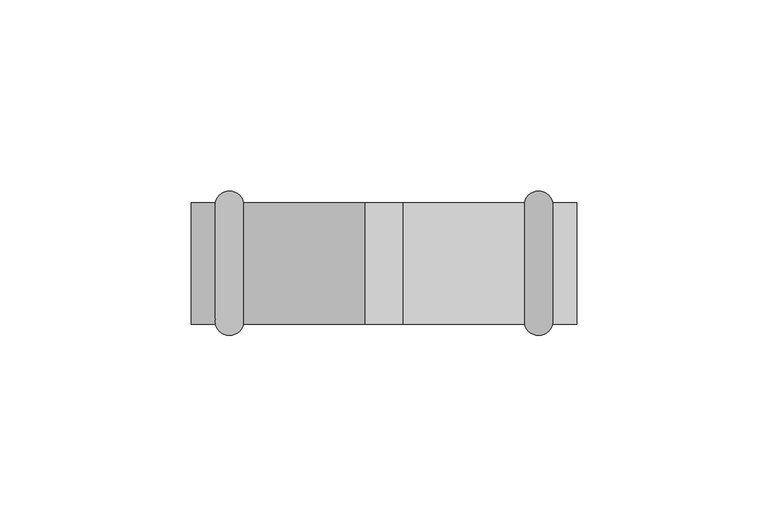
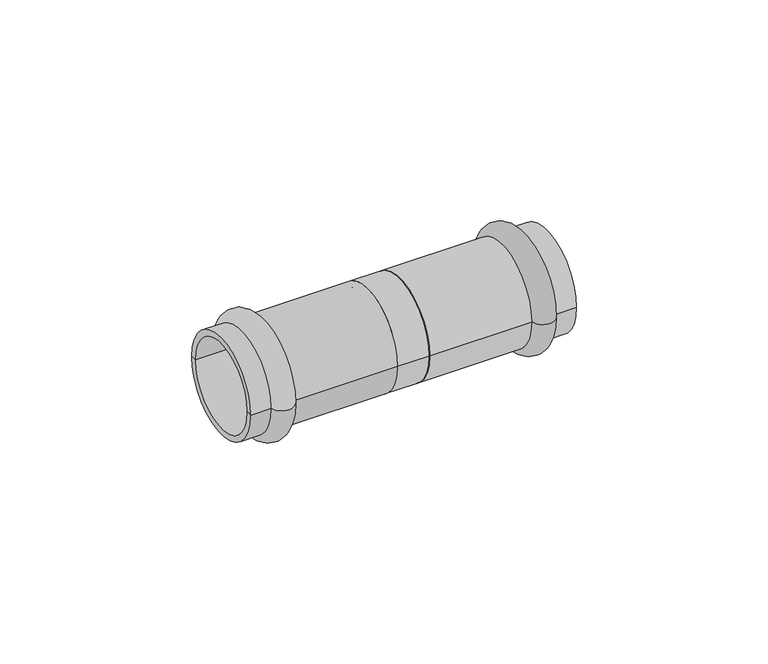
"""IFC4 building model written with IfcOpenShell, lengths in millimetres: pipe fitting geometry, VALTEC_VTi.904.I_Удлинитель_Нержавеющая сталь : VTi.904.I."""

import ifcopenshell
import ifcopenshell.guid

model = None  # the IFC model being written
_history = None  # IfcOwnerHistory: only IFC2X3 demands one
_inside = {}  # id of a spatial element -> (the spatial element, [elements in it])
_under = {}  # id of a project, library or spatial element -> (it, [spatial elements below it])
_declared = {}  # id of a project -> (the project, [libraries it declares])
_typed = {}  # id of a type object -> (the type object, [elements of that type])
_made_of = {}  # id of a material, layer set ... -> (it, [elements and type objects made of it])


def new_model(schema):
    """Start an empty IFC model of exactly this schema.

    Asked for "IFC4X3", IfcOpenShell would pick the latest addendum, in which some entities
    have other attributes; the version numbers below select the first issue.
    IFC2X3 requires an IfcOwnerHistory on every rooted entity: one is made here for all.
    """
    global model, _history
    if schema == "IFC4X3":
        model = ifcopenshell.file(schema_version=(4, 3, 0, 0))
    else:
        model = ifcopenshell.file(schema=schema)
    _inside.clear()
    _under.clear()
    _declared.clear()
    _typed.clear()
    _made_of.clear()
    _history = None
    if model.schema == "IFC2X3":
        org = make("IfcOrganization", Name="unknown")
        user = make(
            "IfcPersonAndOrganization",
            ThePerson=make("IfcPerson", FamilyName="unknown"),
            TheOrganization=org,
        )
        app = make(
            "IfcApplication",
            ApplicationDeveloper=org,
            Version="unknown",
            ApplicationFullName="unknown",
            ApplicationIdentifier="unknown",
        )
        _history = make(
            "IfcOwnerHistory",
            OwningUser=user,
            OwningApplication=app,
            ChangeAction="ADDED",
            CreationDate=0,
        )
    return model


def make(cls, **values):
    """One entity of the class cls with the attributes given. An attribute that is None is left unset."""
    return model.create_entity(
        cls, **{name: value for name, value in values.items() if value is not None}
    )


def rooted(cls, **values):
    """An entity with a GlobalId (a new one), such as an element, a storey or a relation."""
    return make(cls, GlobalId=ifcopenshell.guid.new(), OwnerHistory=_history, **values)


def si_unit(unit_type, name, prefix=None):
    """IfcSIUnit, for example si_unit("LENGTHUNIT", "METRE", prefix="MILLI")."""
    return make("IfcSIUnit", UnitType=unit_type, Prefix=prefix, Name=name)


def assignment(units):
    """IfcUnitAssignment: the units of a project."""
    return None if units is None else make("IfcUnitAssignment", Units=units)


def point(xyz):
    """IfcCartesianPoint."""
    return None if xyz is None else make("IfcCartesianPoint", Coordinates=xyz)


def direction(xyz):
    """IfcDirection."""
    return None if xyz is None else make("IfcDirection", DirectionRatios=xyz)


def frame(location, z_axis=None, x_axis=None):
    """IfcAxis2Placement3D, a coordinate frame: its origin and axes. An axis left out is left unset."""
    return make(
        "IfcAxis2Placement3D",
        Location=point(location),
        Axis=direction(z_axis),
        RefDirection=direction(x_axis),
    )


def frame_2d(location, x_axis=None):
    """IfcAxis2Placement2D, a coordinate frame in the plane: its origin and x axis."""
    return make(
        "IfcAxis2Placement2D", Location=point(location), RefDirection=direction(x_axis)
    )


def origin():
    """The frame at (0, 0, 0) with its axes left unset."""
    return frame((0.0, 0.0, 0.0))


def origin_2d():
    """The frame at (0, 0) in the plane with its x axis left unset."""
    return frame_2d((0.0, 0.0))


def place(relative_to, where):
    """IfcLocalPlacement: puts the frame where relative to a parent placement (None: the world)."""
    return make(
        "IfcLocalPlacement", PlacementRelTo=relative_to, RelativePlacement=where
    )


def context(
    kind, dimensions, precision=None, world=None, true_north=None, identifier=None
):
    """IfcGeometricRepresentationContext, for example the 3D "Model" context."""
    return make(
        "IfcGeometricRepresentationContext",
        ContextIdentifier=identifier,
        ContextType=kind,
        CoordinateSpaceDimension=dimensions,
        Precision=precision,
        WorldCoordinateSystem=world,
        TrueNorth=true_north,
    )


def project(units=None, contexts=None):
    """IfcProject with its units and contexts."""
    return rooted(
        "IfcProject",
        Name="project",
        RepresentationContexts=contexts,
        UnitsInContext=assignment(units),
    )


def spatial(cls, under=None, at=None, **own):
    """A site, building, storey or space (cls), placed at a placement, below another one or the project."""
    s = rooted(cls, ObjectPlacement=at, **own)
    if under is not None:
        _under.setdefault(under.id(), (under, []))[1].append(s)
    return s


def polyline(points):
    """IfcPolyline through the points."""
    return make("IfcPolyline", Points=[point(p) for p in points])


def circle_curve(where, radius):
    """IfcCircle in the frame where."""
    return make("IfcCircle", Position=where, Radius=radius)


def ellipse_curve(where, semi_axis1, semi_axis2):
    """IfcEllipse in the frame where."""
    return make(
        "IfcEllipse", Position=where, SemiAxis1=semi_axis1, SemiAxis2=semi_axis2
    )


def trimmed(basis, trim1, trim2, sense, master):
    """IfcTrimmedCurve: the piece of a basis curve between two trims."""
    return make(
        "IfcTrimmedCurve",
        BasisCurve=basis,
        Trim1=trim1,
        Trim2=trim2,
        SenseAgreement=sense,
        MasterRepresentation=master,
    )


def segment(curve, same_sense, transition):
    """IfcCompositeCurveSegment."""
    return make(
        "IfcCompositeCurveSegment",
        Transition=transition,
        SameSense=same_sense,
        ParentCurve=curve,
    )


def composite_curve(segments, self_intersect=None):
    """IfcCompositeCurve: segments joined end to end."""
    return make("IfcCompositeCurve", Segments=segments, SelfIntersect=self_intersect)


def outline(outer, holes=None, kind="AREA"):
    """IfcArbitraryClosedProfileDef: a profile drawn as a closed curve; with holes, ...WithVoids."""
    if holes is None:
        return make("IfcArbitraryClosedProfileDef", ProfileType=kind, OuterCurve=outer)
    return make(
        "IfcArbitraryProfileDefWithVoids",
        ProfileType=kind,
        OuterCurve=outer,
        InnerCurves=holes,
    )


def extrude(swept, where, along, depth):
    """IfcExtrudedAreaSolid: the profile swept, set in the frame where, extruded along a direction by depth."""
    return make(
        "IfcExtrudedAreaSolid",
        SweptArea=swept,
        Position=where,
        ExtrudedDirection=direction(along),
        Depth=depth,
    )


def shape(context_of_items, identifier, shape_type, items):
    """IfcShapeRepresentation: the items that make up one representation, for example the "Body"."""
    return make(
        "IfcShapeRepresentation",
        ContextOfItems=context_of_items,
        RepresentationIdentifier=identifier,
        RepresentationType=shape_type,
        Items=items,
    )


def source(mapping_origin, context_of_items, identifier, shape_type, items):
    """IfcRepresentationMap: a shape defined once, which mapped items show again and again."""
    return make(
        "IfcRepresentationMap",
        MappingOrigin=mapping_origin,
        MappedRepresentation=shape(context_of_items, identifier, shape_type, items),
    )


def transform(
    local_origin,
    x_axis=None,
    y_axis=None,
    z_axis=None,
    scale=None,
    scale2=None,
    scale3=None,
    uniform=True,
):
    """IfcCartesianTransformationOperator3D, or its non-uniform kind. x_axis, y_axis, z_axis: its Axis1, 2, 3."""
    if uniform:
        return make(
            "IfcCartesianTransformationOperator3D",
            Axis1=direction(x_axis),
            Axis2=direction(y_axis),
            LocalOrigin=point(local_origin),
            Scale=scale,
            Axis3=direction(z_axis),
        )
    return make(
        "IfcCartesianTransformationOperator3DnonUniform",
        Axis1=direction(x_axis),
        Axis2=direction(y_axis),
        LocalOrigin=point(local_origin),
        Scale=scale,
        Axis3=direction(z_axis),
        Scale2=scale2,
        Scale3=scale3,
    )


def mapped(mapping_source, mapping_target):
    """IfcMappedItem: shows the shape of a source again, moved by a transform."""
    return make(
        "IfcMappedItem", MappingSource=mapping_source, MappingTarget=mapping_target
    )


def made_of(thing, what):
    """Note that an element or type object is made of a material, layer set ...; save() writes the relation."""
    if what is not None:
        _made_of.setdefault(what.id(), (what, []))[1].append(thing)
    return thing


def element(
    cls,
    number,
    at=None,
    inside=None,
    cuts=None,
    type_object=None,
    material=None,
    context=None,
    identifier="Body",
    shape_type=None,
    held_by="IfcProductDefinitionShape",
    body=None,
    shapes=None,
    **own,
):
    """One element of the class cls, such as IfcWall. Its Tag is "e" and its number.

    at: its placement. inside: the storey or other place that contains it. cuts: it is an
    opening in that element (IfcRelVoidsElement). A single representation is given by context,
    identifier, shape_type and body (its items); several are given by shapes. held_by: the class
    of the entity that holds the representations. save() writes the other relations.
    """
    e = rooted(cls, Tag="e%d" % number, ObjectPlacement=at, **own)
    if body is not None:
        shapes = [shape(context, identifier, shape_type, body)]
    if shapes is not None:
        e.Representation = make(held_by, Representations=shapes)
    if inside is not None:
        _inside.setdefault(inside.id(), (inside, []))[1].append(e)
    if cuts is not None:
        rooted(
            "IfcRelVoidsElement", RelatingBuildingElement=cuts, RelatedOpeningElement=e
        )
    if type_object is not None:
        _typed.setdefault(type_object.id(), (type_object, []))[1].append(e)
    return made_of(e, material)


def aggregate(whole, parts):
    """IfcRelAggregates: a whole, such as a stair, and the parts it consists of."""
    return rooted("IfcRelAggregates", RelatingObject=whole, RelatedObjects=parts)


def save(model, path):
    """Write the relations noted so far, then the file.

    IfcRelAggregates (storeys below a building ...), IfcRelContainedInSpatialStructure (elements
    in a storey), IfcRelDefinesByType, IfcRelAssociatesMaterial and IfcRelDeclares: one each for
    every whole, place, type object, material and project.
    """
    for whole, parts in _under.values():
        aggregate(whole, parts)
    for where, things in _inside.values():
        rooted(
            "IfcRelContainedInSpatialStructure",
            RelatedElements=things,
            RelatingStructure=where,
        )
    for kind, things in _typed.values():
        rooted("IfcRelDefinesByType", RelatedObjects=things, RelatingType=kind)
    for what, things in _made_of.values():
        rooted("IfcRelAssociatesMaterial", RelatedObjects=things, RelatingMaterial=what)
    for by, libraries in _declared.values():
        rooted("IfcRelDeclares", RelatingContext=by, RelatedDefinitions=libraries)
    model.write(path)


def plane_surface(at):
    """IfcPlane: the flat surface through the origin of the frame at, square to its z axis."""
    return make("IfcPlane", Position=at)


def cylinder_surface(at, radius):
    """IfcCylindricalSurface: all points at the distance radius from the z axis of the frame at."""
    return make("IfcCylindricalSurface", Position=at, Radius=radius)


def revolved_surface(curve, axis_point, axis_direction):
    """IfcSurfaceOfRevolution: the curve turned about the line through axis_point along axis_direction."""
    return make(
        "IfcSurfaceOfRevolution",
        SweptCurve=make("IfcArbitraryOpenProfileDef", ProfileType="CURVE", Curve=curve),
        AxisPosition=make("IfcAxis1Placement", Location=point(axis_point), Axis=direction(axis_direction)),
    )


def advanced_brep(points, edges, surfaces, faces):
    """IfcAdvancedBrep: a solid bounded by faces that lie on surfaces and meet in shared edges.

    An edge is (start, end): straight between two places in points (the first is 0);
    or (start, end, curve); or (start, end, curve, False) where it runs against its curve.
    A face is (place in surfaces, loops), or (place, loops, False) where it looks against
    its surface's normal. A loop lists edges by number (the first is 1), with a minus sign
    where the edge is run from its end to its start. The first loop is the outer one.
    """
    corners = [point(p) for p in points]
    vertices = [make("IfcVertexPoint", VertexGeometry=c) for c in corners]
    made = []
    for start, end, *more in edges:
        made.append(
            make(
                "IfcEdgeCurve",
                EdgeStart=vertices[start],
                EdgeEnd=vertices[end],
                EdgeGeometry=more[0] if more else make("IfcPolyline", Points=[corners[start], corners[end]]),
                SameSense=more[1] if len(more) > 1 else True,
            )
        )
    hull = []
    for where, loops, *sense in faces:
        bounds = []
        for j, loop in enumerate(loops):
            ring = [make("IfcOrientedEdge", EdgeElement=made[abs(k) - 1], Orientation=k > 0) for k in loop]
            bounds.append(
                make(
                    "IfcFaceOuterBound" if j == 0 else "IfcFaceBound",
                    Bound=make("IfcEdgeLoop", EdgeList=ring),
                    Orientation=True,
                )
            )
        hull.append(make("IfcAdvancedFace", Bounds=bounds, FaceSurface=surfaces[where], SameSense=sense[0] if sense else True))
    return make("IfcAdvancedBrep", Outer=make("IfcClosedShell", CfsFaces=hull))


def pipe_fitting_318d39f8(model_context):
    return source(origin(), model_context, "Body", "SolidModel", [
        advanced_brep(
        [(44.1242346, -15.9, 0.0), (36.7757654, -15.9, 0.0), (36.7757654, 15.9, 0.0), (44.1242346, 15.9, 0.0), (50.5, -15.9, 0.0), (50.5, 15.9, 0.0), (50.5, -14.0, 0.0), (50.5, 14.0, 0.0), (5.0, -14.0, 0.0), (5.0, 14.0, 0.0), (5.0, -15.9, 0.0), (5.0, 15.9, 0.0)],
        [
            (0, 1, circle_curve(frame((40.45, -15.15, 0.0), z_axis=(0.0, 0.0, -1.0), x_axis=(-1.0, 0.0, 0.0)), 3.75)),
            (1, 2, circle_curve(frame((36.7757654, 0.0, 0.0), z_axis=(1.0, 0.0, 0.0), x_axis=(0.0, 1.0, 0.0)), 15.9)),
            (2, 3, circle_curve(frame((40.45, 15.15, 0.0), z_axis=(0.0, 0.0, -1.0), x_axis=(-1.0, 0.0, 0.0)), 3.75)),
            (3, 0, circle_curve(frame((44.1242346, 0.0, 0.0), z_axis=(-1.0, 0.0, 0.0), x_axis=(0.0, 1.0, 0.0)), 15.9)),
            (2, 1, circle_curve(frame((36.7757654, 0.0, 0.0), z_axis=(1.0, 0.0, 0.0), x_axis=(0.0, 1.0, 0.0)), 15.9)),
            (0, 3, circle_curve(frame((44.1242346, 0.0, 0.0), z_axis=(-1.0, 0.0, 0.0), x_axis=(0.0, 1.0, 0.0)), 15.9)),
            (4, 0),
            (3, 5),
            (5, 4, circle_curve(frame((50.5, 0.0, 0.0), z_axis=(-1.0, 0.0, 0.0), x_axis=(0.0, 1.0, 0.0)), 15.9)),
            (4, 5, circle_curve(frame((50.5, 0.0, 0.0), z_axis=(-1.0, 0.0, 0.0), x_axis=(0.0, 1.0, 0.0)), 15.9)),
            (6, 4),
            (5, 7),
            (7, 6, circle_curve(frame((50.5, 0.0, 0.0), z_axis=(-1.0, 0.0, 0.0), x_axis=(0.0, 1.0, 0.0)), 14.0)),
            (6, 7, circle_curve(frame((50.5, 0.0, 0.0), z_axis=(-1.0, 0.0, 0.0), x_axis=(0.0, 1.0, 0.0)), 14.0)),
            (8, 6),
            (7, 9),
            (9, 8, circle_curve(frame((5.0, 0.0, 0.0), z_axis=(-1.0, 0.0, 0.0), x_axis=(0.0, 1.0, 0.0)), 14.0)),
            (8, 9, circle_curve(frame((5.0, 0.0, 0.0), z_axis=(-1.0, 0.0, 0.0), x_axis=(0.0, 1.0, 0.0)), 14.0)),
            (10, 8),
            (9, 11),
            (11, 10, circle_curve(frame((5.0, 0.0, 0.0), z_axis=(-1.0, 0.0, 0.0), x_axis=(0.0, 1.0, 0.0)), 15.9)),
            (10, 11, circle_curve(frame((5.0, 0.0, 0.0), z_axis=(-1.0, 0.0, 0.0), x_axis=(0.0, 1.0, 0.0)), 15.9)),
            (1, 10),
            (11, 2),
        ],
        [
            revolved_surface(trimmed(ellipse_curve(frame((40.45, 15.15, 0.0), z_axis=(0.0, 0.0, -1.0), x_axis=(-1.0, 0.0, 0.0)), 3.75, 3.75), [point((36.7757654, 15.9, 0.0))], [point((44.1242346, 15.9, 0.0))], True, "CARTESIAN"), (54.0364426, 0.0, 0.0), (1.0, 0.0, 0.0)),
            cylinder_surface(frame((54.0364426, 0.0, 0.0), z_axis=(1.0, 0.0, 0.0), x_axis=(0.0, 1.0, 0.0)), 15.9),
            plane_surface(frame((50.5, 0.0, 0.0), z_axis=(1.0, 0.0, 0.0), x_axis=(0.0, 1.0, 0.0))),
            revolved_surface(polyline([(50.5, 14.0, 0.0), (5.0, 14.0, 0.0)]), (54.0364426, 0.0, 0.0), (1.0, 0.0, 0.0)),
            plane_surface(frame((5.0, 0.0, 0.0), z_axis=(-1.0, 0.0, 0.0), x_axis=(0.0, 1.0, 0.0))),
        ],
        [
            (0, [[1, 2, 3, 4]]),
            (0, [[-3, 5, -1, 6]]),
            (1, [[7, -4, 8, 9]]),
            (1, [[-8, -6, -7, 10]]),
            (2, [[11, -9, 12, 13]]),
            (2, [[-12, -10, -11, 14]]),
            (3, [[15, -13, 16, 17]]),
            (3, [[-16, -14, -15, 18]]),
            (4, [[19, -17, 20, 21]]),
            (4, [[-20, -18, -19, 22]]),
            (1, [[23, -21, 24, -2]]),
            (1, [[-24, -22, -23, -5]]),
        ],
    ),
        advanced_brep(
        [(-44.1242346, -15.9, 0.0), (-44.1242346, 15.9, 0.0), (-36.7757654, 15.9, 0.0), (-36.7757654, -15.9, 0.0), (-50.5, -15.9, 0.0), (-50.5, 15.9, 0.0), (-50.5, -14.0, 0.0), (-50.5, 14.0, 0.0), (-5.0, -14.0, 0.0), (-5.0, 14.0, 0.0), (-5.0, -15.9, 0.0), (-5.0, 15.9, 0.0)],
        [
            (0, 1, circle_curve(frame((-44.1242346, 0.0, 0.0), z_axis=(1.0, 0.0, 0.0), x_axis=(0.0, 1.0, 0.0)), 15.9)),
            (1, 2, circle_curve(frame((-40.45, 15.15, 0.0), z_axis=(0.0, 0.0, -1.0), x_axis=(1.0, 0.0, 0.0)), 3.75)),
            (2, 3, circle_curve(frame((-36.7757654, 0.0, 0.0), z_axis=(-1.0, 0.0, 0.0), x_axis=(0.0, 1.0, 0.0)), 15.9)),
            (3, 0, circle_curve(frame((-40.45, -15.15, 0.0), z_axis=(0.0, 0.0, -1.0), x_axis=(1.0, 0.0, 0.0)), 3.75)),
            (1, 0, circle_curve(frame((-44.1242346, 0.0, 0.0), z_axis=(1.0, 0.0, 0.0), x_axis=(0.0, 1.0, 0.0)), 15.9)),
            (3, 2, circle_curve(frame((-36.7757654, 0.0, 0.0), z_axis=(-1.0, 0.0, 0.0), x_axis=(0.0, 1.0, 0.0)), 15.9)),
            (4, 5, circle_curve(frame((-50.5, 0.0, 0.0), z_axis=(1.0, 0.0, 0.0), x_axis=(0.0, 1.0, 0.0)), 15.9)),
            (5, 1),
            (0, 4),
            (5, 4, circle_curve(frame((-50.5, 0.0, 0.0), z_axis=(1.0, 0.0, 0.0), x_axis=(0.0, 1.0, 0.0)), 15.9)),
            (6, 7, circle_curve(frame((-50.5, 0.0, 0.0), z_axis=(1.0, 0.0, 0.0), x_axis=(0.0, 1.0, 0.0)), 14.0)),
            (7, 5),
            (4, 6),
            (7, 6, circle_curve(frame((-50.5, 0.0, 0.0), z_axis=(1.0, 0.0, 0.0), x_axis=(0.0, 1.0, 0.0)), 14.0)),
            (8, 9, circle_curve(frame((-5.0, 0.0, 0.0), z_axis=(1.0, 0.0, 0.0), x_axis=(0.0, 1.0, 0.0)), 14.0)),
            (9, 7),
            (6, 8),
            (9, 8, circle_curve(frame((-5.0, 0.0, 0.0), z_axis=(1.0, 0.0, 0.0), x_axis=(0.0, 1.0, 0.0)), 14.0)),
            (10, 11, circle_curve(frame((-5.0, 0.0, 0.0), z_axis=(1.0, 0.0, 0.0), x_axis=(0.0, 1.0, 0.0)), 15.9)),
            (11, 9),
            (8, 10),
            (11, 10, circle_curve(frame((-5.0, 0.0, 0.0), z_axis=(1.0, 0.0, 0.0), x_axis=(0.0, 1.0, 0.0)), 15.9)),
            (2, 11),
            (10, 3),
        ],
        [
            revolved_surface(trimmed(ellipse_curve(frame((-40.45, 15.15, 0.0), z_axis=(0.0, 0.0, 1.0), x_axis=(1.0, 0.0, 0.0)), 3.75, 3.75), [point((-36.7757654, 15.9, 0.0))], [point((-44.1242346, 15.9, 0.0))], True, "CARTESIAN"), (-54.0364426, 0.0, 0.0), (-1.0, 0.0, 0.0)),
            cylinder_surface(frame((-54.0364426, 0.0, 0.0), z_axis=(-1.0, 0.0, 0.0), x_axis=(0.0, 1.0, 0.0)), 15.9),
            plane_surface(frame((-50.5, 0.0, 0.0), z_axis=(-1.0, 0.0, 0.0), x_axis=(0.0, 1.0, 0.0))),
            revolved_surface(polyline([(-50.5, 14.0, 0.0), (-5.0, 14.0, 0.0)]), (-54.0364426, 0.0, 0.0), (-1.0, 0.0, 0.0)),
            plane_surface(frame((-5.0, 0.0, 0.0), z_axis=(1.0, 0.0, 0.0), x_axis=(0.0, 1.0, 0.0))),
        ],
        [
            (0, [[1, 2, 3, 4]]),
            (0, [[5, -4, 6, -2]]),
            (1, [[7, 8, -1, 9]]),
            (1, [[10, -9, -5, -8]]),
            (2, [[11, 12, -7, 13]]),
            (2, [[14, -13, -10, -12]]),
            (3, [[15, 16, -11, 17]]),
            (3, [[18, -17, -14, -16]]),
            (4, [[19, 20, -15, 21]]),
            (4, [[22, -21, -18, -20]]),
            (1, [[-3, 23, -19, 24]]),
            (1, [[-6, -24, -22, -23]]),
        ],
    ),
        extrude(outline(composite_curve([segment(trimmed(circle_curve(origin_2d(), 15.9), [point((-15.9, 0.0))], [point((15.9, 0.0))], False, "CARTESIAN"), True, "CONTINUOUS"), segment(trimmed(circle_curve(origin_2d(), 15.9), [point((15.9, 0.0))], [point((-15.9, 0.0))], False, "CARTESIAN"), True, "CONTINUOUS")], self_intersect=False), holes=[composite_curve([segment(trimmed(circle_curve(origin_2d(), 14.0), [point((-14.0, 0.0))], [point((14.0, 0.0))], True, "CARTESIAN"), True, "CONTINUOUS"), segment(trimmed(circle_curve(origin_2d(), 14.0), [point((14.0, 0.0))], [point((-14.0, 0.0))], True, "CARTESIAN"), True, "CONTINUOUS")], self_intersect=False)]), frame((-5.0, 0.0, 0.0), z_axis=(1.0, 0.0, 0.0), x_axis=(0.0, 1.0, 0.0)), (0.0, 0.0, 1.0), 10.0),
    ])


if __name__ == "__main__":
    model = new_model("IFC4")
    model_context = context("Model", 3, world=origin())
    ifc_project = project(units=[si_unit("LENGTHUNIT", "METRE", prefix="MILLI")], contexts=[model_context])
    site = spatial("IfcSite", under=ifc_project)
    building = spatial("IfcBuilding", under=site)
    placement = place(None, origin())
    pipe_fitting_shape = pipe_fitting_318d39f8(model_context)
    element("IfcPipeFitting", 1, ObjectType="VALTEC_VTi.904.I_Удлинитель_Нержавеющая сталь : VTi.904.I", at=placement, inside=building, context=model_context, shape_type="MappedRepresentation", body=[
        mapped(pipe_fitting_shape, transform((0.0, 0.0, 0.0), x_axis=(1.0, 0.0, 0.0), y_axis=(0.0, 1.0, 0.0), z_axis=(0.0, 0.0, 1.0))),
    ])
    save(model, "model.ifc")
